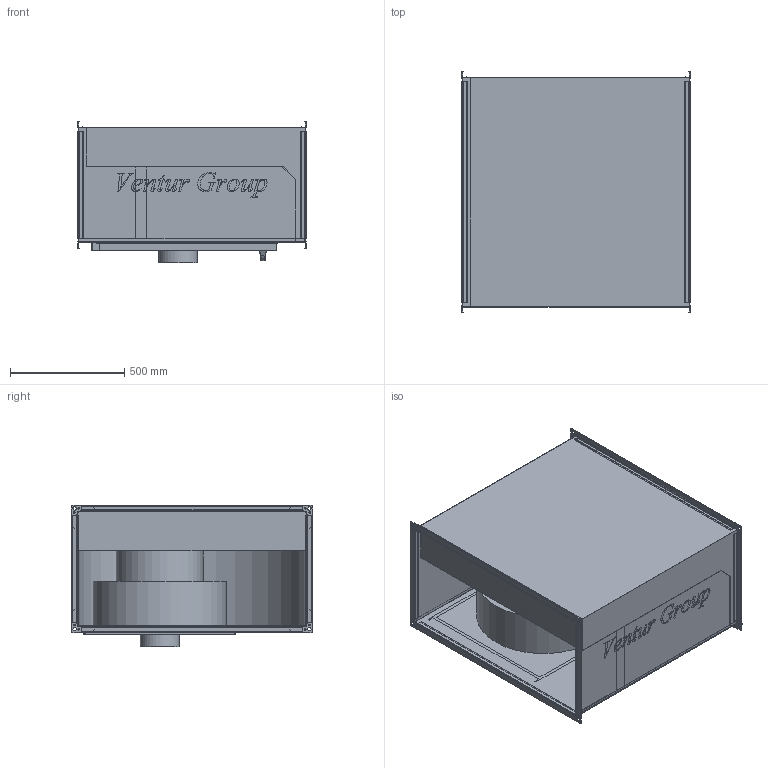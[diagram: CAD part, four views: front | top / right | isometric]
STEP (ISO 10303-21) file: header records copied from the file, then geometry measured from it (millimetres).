
FILE_DESCRIPTION(/* description */ (''),/* implementation_level */ '2;1');
FILE_NAME(/* name */ 'C:\Users\M.Janczarek\Documents\Modele uproszczone\IBF EC\IBF_EC_560T 41010255\IBF_EC_560T 41010255\IBF_EC_560T 41010255.stp',/* time_stamp */ '2018-04-03T12:12:55+02:00',/* author */ ('M.Janczarek'),/* organization */ (''),/* preprocessor_version */ 'ST-DEVELOPER v16.5',/* originating_system */ 'Autodesk Inventor 2017',/* authorisation */ '');
FILE_SCHEMA (('AUTOMOTIVE_DESIGN { 1 0 10303 214 3 1 1 }'));
Length unit declared in the file: millimetre
Products named in the file (1): IBF_EC_560T 41010255
Bounding box: 1000 x 1059 x 621.7 mm (x, y, z)
Volume: 95294412.2 mm3; surface area: 12198567.9 mm2
Topology: 1 solids, 2 shells, 1198 faces, 3582 edges, 2356 vertices
Faces by surface type: plane 636, bspline 295, cylinder 267
Full cylindrical faces by diameter (mm): 6.8 x16, 170 x1, 380 x1, 584 x1
Entity records: 42933 total; most frequent: CARTESIAN_POINT 11223, ORIENTED_EDGE 7126, DIRECTION 5367, EDGE_CURVE 3563, LINE 2435, VECTOR 2435, VERTEX_POINT 2356, AXIS2_PLACEMENT_3D 1466
